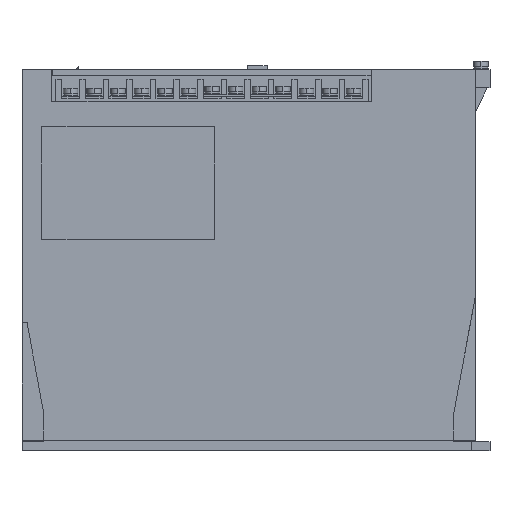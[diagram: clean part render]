
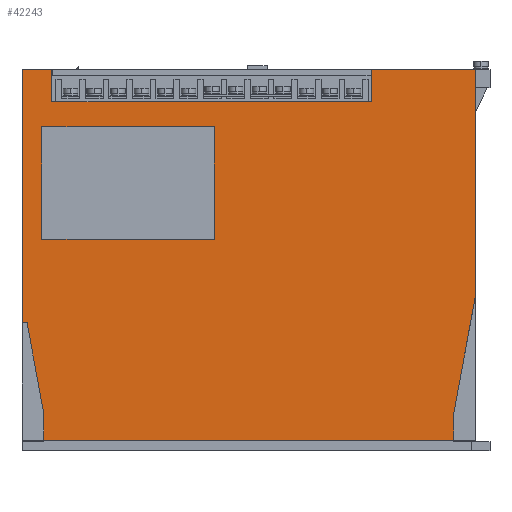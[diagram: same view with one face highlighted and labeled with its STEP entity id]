
A CAD part, left-side view. The second image highlights one B-rep face of the part: STEP entity #42243.
In plain terms, the highlighted planar face has unit normal (-1, 0, 0).
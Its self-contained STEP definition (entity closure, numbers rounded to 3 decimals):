
#6617 = VERTEX_POINT ( 'NONE', #43655 ) ;
#7805 = DIRECTION ( 'NONE',  ( 0., -1., 0. ) ) ;
#7806 = VECTOR ( 'NONE', #7805, 1000. ) ;
#7807 = CARTESIAN_POINT ( 'NONE',  ( -105., -10.5, 192.2 ) ) ;
#7808 = LINE ( 'NONE', #7807, #7806 ) ;
#10351 = DIRECTION ( 'NONE',  ( 0., -1., 0. ) ) ;
#10352 = VECTOR ( 'NONE', #10351, 1000. ) ;
#10353 = CARTESIAN_POINT ( 'NONE',  ( -105., 6., 210. ) ) ;
#10354 = LINE ( 'NONE', #10353, #10352 ) ;
#10355 = CARTESIAN_POINT ( 'NONE',  ( -105., 6., 210. ) ) ;
#10391 = CARTESIAN_POINT ( 'NONE',  ( -105., -244., 210. ) ) ;
#10392 = DIRECTION ( 'NONE',  ( 0., -1., 0. ) ) ;
#10393 = VECTOR ( 'NONE', #10392, 1000. ) ;
#10394 = CARTESIAN_POINT ( 'NONE',  ( -105., 6., 210. ) ) ;
#10395 = LINE ( 'NONE', #10394, #10393 ) ;
#12684 = DIRECTION ( 'NONE',  ( 0., 0., -1. ) ) ;
#12685 = VECTOR ( 'NONE', #12684, 1000. ) ;
#12686 = CARTESIAN_POINT ( 'NONE',  ( -105., 6., 467.13 ) ) ;
#12687 = LINE ( 'NONE', #12686, #12685 ) ;
#12688 = CARTESIAN_POINT ( 'NONE',  ( -105., 6., 70.5 ) ) ;
#13115 = VERTEX_POINT ( 'NONE', #43988 ) ;
#13956 = VERTEX_POINT ( 'NONE', #44036 ) ;
#13957 = VERTEX_POINT ( 'NONE', #44035 ) ;
#13979 = EDGE_CURVE ( 'NONE', #6617, #13956, #44034, .T. ) ;
#14123 = EDGE_CURVE ( 'NONE', #13115, #13957, #44030, .T. ) ;
#17039 = CARTESIAN_POINT ( 'NONE',  ( -105., -232., 5.7 ) ) ;
#17040 = DIRECTION ( 'NONE',  ( 0., 0., -1. ) ) ;
#17041 = VECTOR ( 'NONE', #17040, 1000. ) ;
#17043 = CARTESIAN_POINT ( 'NONE',  ( -105., -232., 20.5 ) ) ;
#17044 = LINE ( 'NONE', #17043, #17041 ) ;
#17045 = CARTESIAN_POINT ( 'NONE',  ( -105., -232., 20.5 ) ) ;
#17057 = CARTESIAN_POINT ( 'NONE',  ( -105., -244., 85.5 ) ) ;
#17058 = DIRECTION ( 'NONE',  ( 0., 0., -1. ) ) ;
#17059 = VECTOR ( 'NONE', #17058, 1000. ) ;
#17060 = CARTESIAN_POINT ( 'NONE',  ( -105., -244., 467.13 ) ) ;
#17061 = LINE ( 'NONE', #17060, #17059 ) ;
#17110 = CARTESIAN_POINT ( 'NONE',  ( -105., -6., 20.5 ) ) ;
#17111 = DIRECTION ( 'NONE',  ( 0., 0., -1. ) ) ;
#17112 = VECTOR ( 'NONE', #17111, 1000. ) ;
#17113 = CARTESIAN_POINT ( 'NONE',  ( -105., -6., 20.5 ) ) ;
#17114 = LINE ( 'NONE', #17113, #17112 ) ;
#17116 = CARTESIAN_POINT ( 'NONE',  ( -105., -6., 5.7 ) ) ;
#17141 = CARTESIAN_POINT ( 'NONE',  ( -105., 3.231, 70.5 ) ) ;
#17142 = DIRECTION ( 'NONE',  ( 0., -1., 0. ) ) ;
#17143 = VECTOR ( 'NONE', #17142, 1000. ) ;
#17144 = CARTESIAN_POINT ( 'NONE',  ( -105., 6., 70.5 ) ) ;
#17145 = LINE ( 'NONE', #17144, #17143 ) ;
#17146 = DIRECTION ( 'NONE',  ( 0., 0., -1. ) ) ;
#17147 = DIRECTION ( 'NONE',  ( 1., 0., 0. ) ) ;
#17148 = CARTESIAN_POINT ( 'NONE',  ( -105., 6., 483.13 ) ) ;
#17149 = AXIS2_PLACEMENT_3D ( 'NONE', #17148, #17147, #17146 ) ;
#17150 = PLANE ( 'NONE',  #17149 ) ;
#17151 = FACE_BOUND ( 'NONE', #42239, .T. ) ;
#17152 = FACE_OUTER_BOUND ( 'NONE', #42244, .T. ) ;
#17157 = DIRECTION ( 'NONE',  ( 0., -0.182, 0.983 ) ) ;
#17158 = VECTOR ( 'NONE', #17157, 1000. ) ;
#17159 = CARTESIAN_POINT ( 'NONE',  ( -105., -232., 20.5 ) ) ;
#17160 = LINE ( 'NONE', #17159, #17158 ) ;
#17240 = DIRECTION ( 'NONE',  ( 0., 1., 0. ) ) ;
#17241 = VECTOR ( 'NONE', #17240, 1000. ) ;
#17242 = CARTESIAN_POINT ( 'NONE',  ( -105., -5., 178.5 ) ) ;
#17243 = LINE ( 'NONE', #17242, #17241 ) ;
#17245 = CARTESIAN_POINT ( 'NONE',  ( -105., -5., 178.5 ) ) ;
#17246 = DIRECTION ( 'NONE',  ( 0., 0., -1. ) ) ;
#17247 = VECTOR ( 'NONE', #17246, 1000. ) ;
#17248 = CARTESIAN_POINT ( 'NONE',  ( -105., -5., 116.5 ) ) ;
#17249 = LINE ( 'NONE', #17248, #17247 ) ;
#17250 = CARTESIAN_POINT ( 'NONE',  ( -105., -5., 116.5 ) ) ;
#17251 = DIRECTION ( 'NONE',  ( 0., -1., 0. ) ) ;
#17252 = VECTOR ( 'NONE', #17251, 1000. ) ;
#17253 = CARTESIAN_POINT ( 'NONE',  ( -105., -5., 116.5 ) ) ;
#17254 = LINE ( 'NONE', #17253, #17252 ) ;
#17255 = CARTESIAN_POINT ( 'NONE',  ( -105., -100., 178.5 ) ) ;
#17256 = CARTESIAN_POINT ( 'NONE',  ( -105., -100., 116.5 ) ) ;
#17257 = DIRECTION ( 'NONE',  ( 0., 0., 1. ) ) ;
#17258 = VECTOR ( 'NONE', #17257, 1000. ) ;
#17259 = CARTESIAN_POINT ( 'NONE',  ( -105., -100., 116.5 ) ) ;
#17260 = LINE ( 'NONE', #17259, #17258 ) ;
#17281 = DIRECTION ( 'NONE',  ( 0., -1., 0. ) ) ;
#17282 = VECTOR ( 'NONE', #17281, 1000. ) ;
#17283 = CARTESIAN_POINT ( 'NONE',  ( -105., -6., 5.7 ) ) ;
#17284 = LINE ( 'NONE', #17283, #17282 ) ;
#17285 = DIRECTION ( 'NONE',  ( 0., 0.182, 0.983 ) ) ;
#17286 = VECTOR ( 'NONE', #17285, 1000. ) ;
#17287 = CARTESIAN_POINT ( 'NONE',  ( -105., -6., 20.5 ) ) ;
#17288 = LINE ( 'NONE', #17287, #17286 ) ;
#36946 = EDGE_CURVE ( 'NONE', #13115, #6617, #7808, .T. ) ;
#38419 = VERTEX_POINT ( 'NONE', #10355 ) ;
#38421 = EDGE_CURVE ( 'NONE', #38419, #13957, #10354, .T. ) ;
#38433 = EDGE_CURVE ( 'NONE', #13956, #38434, #10395, .T. ) ;
#38434 = VERTEX_POINT ( 'NONE', #10391 ) ;
#39688 = VERTEX_POINT ( 'NONE', #12688 ) ;
#39690 = EDGE_CURVE ( 'NONE', #38419, #39688, #12687, .T. ) ;
#42179 = EDGE_CURVE ( 'NONE', #38434, #42180, #17061, .T. ) ;
#42180 = VERTEX_POINT ( 'NONE', #17057 ) ;
#42188 = VERTEX_POINT ( 'NONE', #17045 ) ;
#42190 = EDGE_CURVE ( 'NONE', #42188, #42191, #17044, .T. ) ;
#42191 = VERTEX_POINT ( 'NONE', #17039 ) ;
#42223 = VERTEX_POINT ( 'NONE', #17116 ) ;
#42225 = EDGE_CURVE ( 'NONE', #42226, #42223, #17114, .T. ) ;
#42226 = VERTEX_POINT ( 'NONE', #17110 ) ;
#42233 = ORIENTED_EDGE ( 'NONE', *, *, #42190, .F. ) ;
#42234 = ORIENTED_EDGE ( 'NONE', *, *, #42235, .T. ) ;
#42235 = EDGE_CURVE ( 'NONE', #42188, #42180, #17160, .T. ) ;
#42236 = ORIENTED_EDGE ( 'NONE', *, *, #42179, .F. ) ;
#42237 = ORIENTED_EDGE ( 'NONE', *, *, #38433, .F. ) ;
#42238 = ORIENTED_EDGE ( 'NONE', *, *, #13979, .F. ) ;
#42239 = EDGE_LOOP ( 'NONE', ( #42300, #42304, #42307, #42310 ) ) ;
#42243 = ADVANCED_FACE ( 'NONE', ( #17152, #17151 ), #17150, .F. ) ;
#42244 = EDGE_LOOP ( 'NONE', ( #42245, #42246, #42247, #42248, #42249, #42315, #42317, #42318, #42233, #42234, #42236, #42237, #42238 ) ) ;
#42245 = ORIENTED_EDGE ( 'NONE', *, *, #36946, .F. ) ;
#42246 = ORIENTED_EDGE ( 'NONE', *, *, #14123, .T. ) ;
#42247 = ORIENTED_EDGE ( 'NONE', *, *, #38421, .F. ) ;
#42248 = ORIENTED_EDGE ( 'NONE', *, *, #39690, .T. ) ;
#42249 = ORIENTED_EDGE ( 'NONE', *, *, #42250, .T. ) ;
#42250 = EDGE_CURVE ( 'NONE', #39688, #42251, #17145, .T. ) ;
#42251 = VERTEX_POINT ( 'NONE', #17141 ) ;
#42300 = ORIENTED_EDGE ( 'NONE', *, *, #42301, .F. ) ;
#42301 = EDGE_CURVE ( 'NONE', #42302, #42303, #17260, .T. ) ;
#42302 = VERTEX_POINT ( 'NONE', #17256 ) ;
#42303 = VERTEX_POINT ( 'NONE', #17255 ) ;
#42304 = ORIENTED_EDGE ( 'NONE', *, *, #42305, .F. ) ;
#42305 = EDGE_CURVE ( 'NONE', #42306, #42302, #17254, .T. ) ;
#42306 = VERTEX_POINT ( 'NONE', #17250 ) ;
#42307 = ORIENTED_EDGE ( 'NONE', *, *, #42308, .F. ) ;
#42308 = EDGE_CURVE ( 'NONE', #42309, #42306, #17249, .T. ) ;
#42309 = VERTEX_POINT ( 'NONE', #17245 ) ;
#42310 = ORIENTED_EDGE ( 'NONE', *, *, #42311, .F. ) ;
#42311 = EDGE_CURVE ( 'NONE', #42303, #42309, #17243, .T. ) ;
#42315 = ORIENTED_EDGE ( 'NONE', *, *, #42316, .F. ) ;
#42316 = EDGE_CURVE ( 'NONE', #42226, #42251, #17288, .T. ) ;
#42317 = ORIENTED_EDGE ( 'NONE', *, *, #42225, .T. ) ;
#42318 = ORIENTED_EDGE ( 'NONE', *, *, #42319, .T. ) ;
#42319 = EDGE_CURVE ( 'NONE', #42223, #42191, #17284, .T. ) ;
#43655 = CARTESIAN_POINT ( 'NONE',  ( -105., -186.7, 192.2 ) ) ;
#43988 = CARTESIAN_POINT ( 'NONE',  ( -105., -10.5, 192.2 ) ) ;
#44027 = DIRECTION ( 'NONE',  ( 0., 0., 1. ) ) ;
#44028 = VECTOR ( 'NONE', #44027, 1000. ) ;
#44029 = CARTESIAN_POINT ( 'NONE',  ( -105., -10.5, 192.2 ) ) ;
#44030 = LINE ( 'NONE', #44029, #44028 ) ;
#44031 = DIRECTION ( 'NONE',  ( 0., 0., 1. ) ) ;
#44032 = VECTOR ( 'NONE', #44031, 1000. ) ;
#44033 = CARTESIAN_POINT ( 'NONE',  ( -105., -186.7, 192.2 ) ) ;
#44034 = LINE ( 'NONE', #44033, #44032 ) ;
#44035 = CARTESIAN_POINT ( 'NONE',  ( -105., -10.5, 210. ) ) ;
#44036 = CARTESIAN_POINT ( 'NONE',  ( -105., -186.7, 210. ) ) ;
